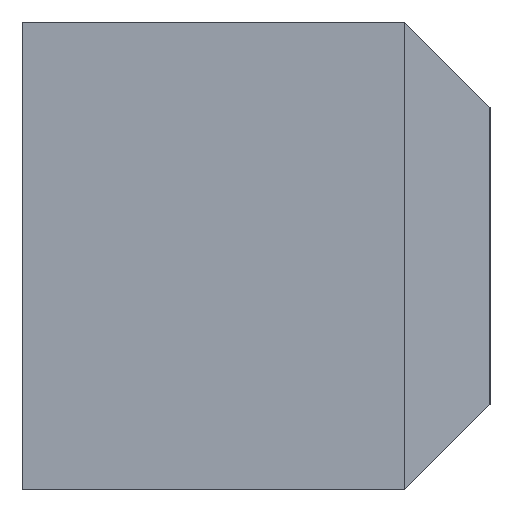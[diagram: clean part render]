
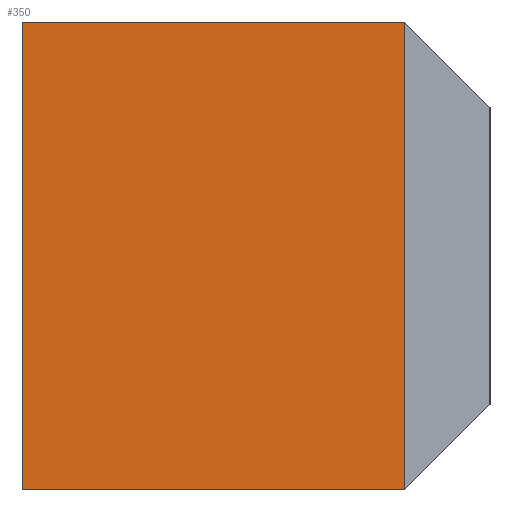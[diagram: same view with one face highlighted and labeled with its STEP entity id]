
A CAD part, left-side view. The second image highlights one B-rep face of the part: STEP entity #350.
In plain terms, the highlighted planar face has unit normal (-1, 0, 0).
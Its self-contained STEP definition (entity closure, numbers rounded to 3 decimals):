
#57=CARTESIAN_POINT('Line Origine',(-62.5,22.,0.)) ;
#61=CARTESIAN_POINT('Vertex',(-62.5,22.,-11.)) ;
#63=CARTESIAN_POINT('Vertex',(-62.5,22.,11.)) ;
#320=CARTESIAN_POINT('Axis2P3D Location',(-62.5,0.,0.)) ;
#325=CARTESIAN_POINT('Line Origine',(-62.5,4.,0.)) ;
#329=CARTESIAN_POINT('Vertex',(-62.5,4.,11.)) ;
#331=CARTESIAN_POINT('Vertex',(-62.5,4.,-11.)) ;
#334=CARTESIAN_POINT('Line Origine',(-62.5,13.,11.)) ;
#339=CARTESIAN_POINT('Line Origine',(-62.5,13.,-11.)) ;
#58=DIRECTION('Vector Direction',(0.,0.,1.)) ;
#321=DIRECTION('Axis2P3D Direction',(1.,0.,0.)) ;
#322=DIRECTION('Axis2P3D XDirection',(0.,0.,-1.)) ;
#326=DIRECTION('Vector Direction',(0.,0.,-1.)) ;
#335=DIRECTION('Vector Direction',(0.,-1.,0.)) ;
#340=DIRECTION('Vector Direction',(0.,1.,0.)) ;
#323=AXIS2_PLACEMENT_3D('Plane Axis2P3D',#320,#321,#322) ;
#345=ORIENTED_EDGE('',*,*,#333,.F.) ;
#346=ORIENTED_EDGE('',*,*,#338,.F.) ;
#347=ORIENTED_EDGE('',*,*,#65,.F.) ;
#348=ORIENTED_EDGE('',*,*,#343,.F.) ;
#59=VECTOR('Line Direction',#58,1.) ;
#327=VECTOR('Line Direction',#326,1.) ;
#336=VECTOR('Line Direction',#335,1.) ;
#341=VECTOR('Line Direction',#340,1.) ;
#350=ADVANCED_FACE('761-022125',(#349),#324,.F.) ;
#65=EDGE_CURVE('',#62,#64,#60,.T.) ;
#333=EDGE_CURVE('',#330,#332,#328,.T.) ;
#338=EDGE_CURVE('',#64,#330,#337,.T.) ;
#343=EDGE_CURVE('',#332,#62,#342,.T.) ;
#344=EDGE_LOOP('',(#345,#346,#347,#348)) ;
#349=FACE_OUTER_BOUND('',#344,.T.) ;
#60=LINE('Line',#57,#59) ;
#328=LINE('Line',#325,#327) ;
#337=LINE('Line',#334,#336) ;
#342=LINE('Line',#339,#341) ;
#324=PLANE('Plane',#323) ;
#62=VERTEX_POINT('',#61) ;
#64=VERTEX_POINT('',#63) ;
#330=VERTEX_POINT('',#329) ;
#332=VERTEX_POINT('',#331) ;
